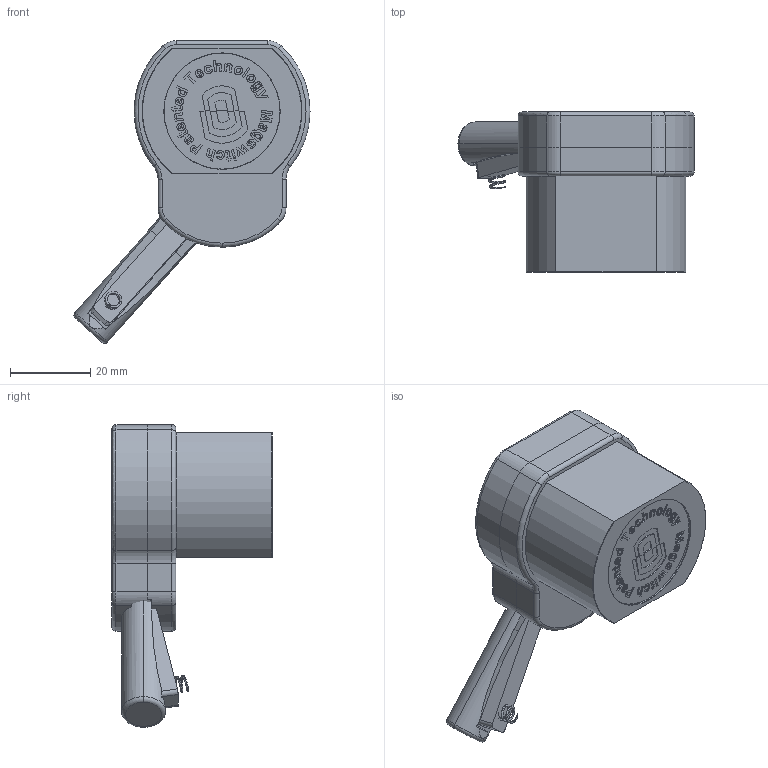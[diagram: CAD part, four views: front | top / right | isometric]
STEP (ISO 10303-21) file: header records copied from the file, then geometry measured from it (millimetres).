
FILE_DESCRIPTION (( 'STEP AP203' ), '1' );
FILE_NAME ('8000579_p.STEP', '2015-03-18T20:48:27', ( '' ), ( '' ), 'SwSTEP 2.0', 'SolidWorks 2013', '' );
FILE_SCHEMA (( 'CONFIG_CONTROL_DESIGN' ));
Products named in the file (1): 8000579_p
Bounding box: 59.01 x 40 x 75.63 mm (x, y, z)
Surface area: 15693.8 mm2 (no closed solid volume)
Topology: 0 solids, 11 shells, 737 faces, 2275 edges, 1542 vertices
Faces by surface type: plane 361, bspline 229, cylinder 79, cone 46, torus 22
Entity records: 50671 total; most frequent: CARTESIAN_POINT 32083, ORIENTED_EDGE 4059, DIRECTION 3054, EDGE_CURVE 2275, VERTEX_POINT 1542, LINE 1328, VECTOR 1328, AXIS2_PLACEMENT_3D 863
